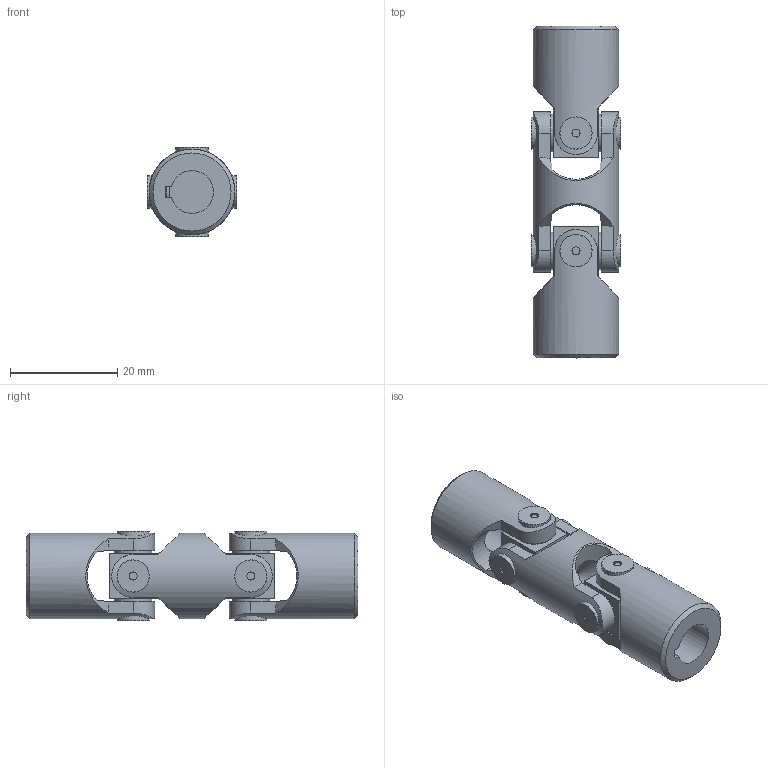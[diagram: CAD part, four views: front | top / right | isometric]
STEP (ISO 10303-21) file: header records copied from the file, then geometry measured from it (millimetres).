
FILE_DESCRIPTION(/* description */ (''),/* implementation_level */ '2;1');
FILE_NAME(/* name */ '\\SRV2016\Societa\Stefano\Disegni 3D\00Catalogo 3D\02Doppi GD-GBD\SG0D081C.stp',/* time_stamp */ '2021-11-22T16:53:57+01:00',/* author */ ('acquisti'),/* organization */ (''),/* preprocessor_version */ 'ST-DEVELOPER v15.6',/* originating_system */ 'Autodesk Inventor 2015',/* authorisation */ '');
FILE_SCHEMA (('AUTOMOTIVE_DESIGN { 1 0 10303 214 3 1 1 }'));
Length unit declared in the file: millimetre
Products named in the file (5): 01G MOD; 01-02G SFE; 02G MOC; 02G MOS; Ø16_02GD-00_SG0D0800
Assembly tree (5 placements, depth 2):
  Ø16_02GD-00_SG0D0800
    01G MOD
    01-02G SFE  x2
    02G MOC
    02G MOS
Bounding box: 16.7 x 62 x 16.7 mm (x, y, z)
Volume: 8352 mm3; surface area: 6070.1 mm2
Topology: 5 solids, 5 shells, 140 faces, 350 edges, 240 vertices
Faces by surface type: plane 73, cylinder 41, cone 22, torus 4
Full cylindrical faces by diameter (mm): 1.5 x8, 6 x8, 7 x8, 8 x1, 8.5 x3, 16 x3
Entity records: 4325 total; most frequent: CARTESIAN_POINT 1539, ORIENTED_EDGE 536, DIRECTION 531, EDGE_CURVE 268, AXIS2_PLACEMENT_3D 231, VERTEX_POINT 202, EDGE_LOOP 184, FACE_OUTER_BOUND 126
